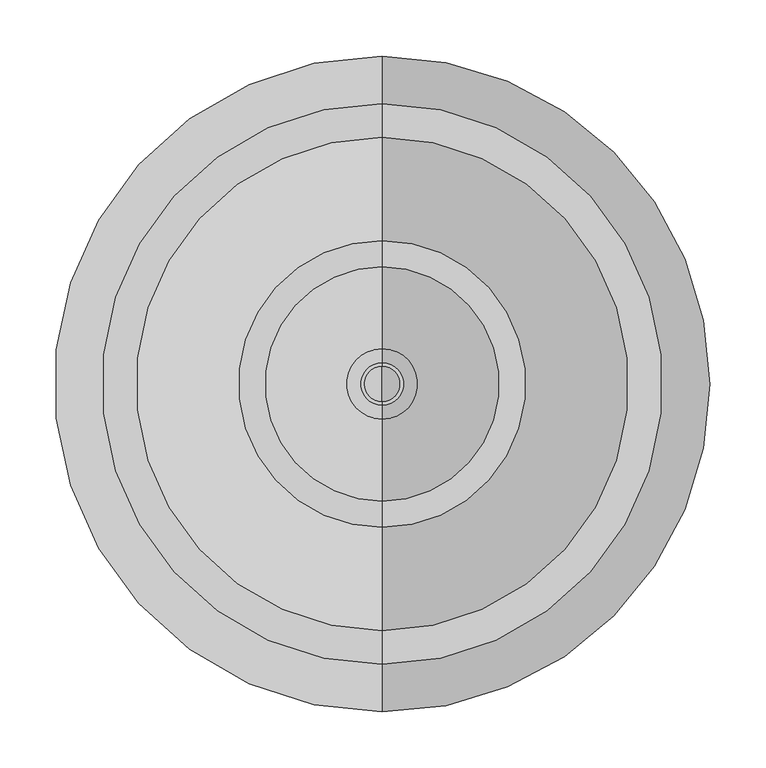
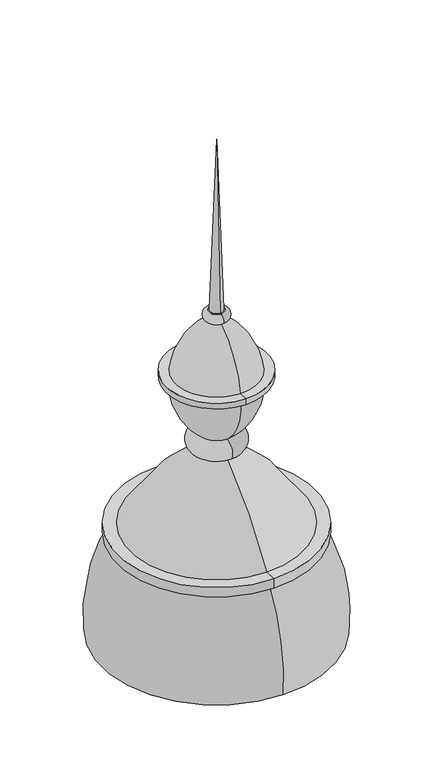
"""IFC4 building model written with IfcOpenShell, lengths in millimetres: column geometry, 旗杆2 : 旗杆."""

import ifcopenshell
import ifcopenshell.guid

model = None  # the IFC model being written
_history = None  # IfcOwnerHistory: only IFC2X3 demands one
_inside = {}  # id of a spatial element -> (the spatial element, [elements in it])
_under = {}  # id of a project, library or spatial element -> (it, [spatial elements below it])
_declared = {}  # id of a project -> (the project, [libraries it declares])
_typed = {}  # id of a type object -> (the type object, [elements of that type])
_made_of = {}  # id of a material, layer set ... -> (it, [elements and type objects made of it])


def new_model(schema):
    """Start an empty IFC model of exactly this schema.

    Asked for "IFC4X3", IfcOpenShell would pick the latest addendum, in which some entities
    have other attributes; the version numbers below select the first issue.
    IFC2X3 requires an IfcOwnerHistory on every rooted entity: one is made here for all.
    """
    global model, _history
    if schema == "IFC4X3":
        model = ifcopenshell.file(schema_version=(4, 3, 0, 0))
    else:
        model = ifcopenshell.file(schema=schema)
    _inside.clear()
    _under.clear()
    _declared.clear()
    _typed.clear()
    _made_of.clear()
    _history = None
    if model.schema == "IFC2X3":
        org = make("IfcOrganization", Name="unknown")
        user = make(
            "IfcPersonAndOrganization",
            ThePerson=make("IfcPerson", FamilyName="unknown"),
            TheOrganization=org,
        )
        app = make(
            "IfcApplication",
            ApplicationDeveloper=org,
            Version="unknown",
            ApplicationFullName="unknown",
            ApplicationIdentifier="unknown",
        )
        _history = make(
            "IfcOwnerHistory",
            OwningUser=user,
            OwningApplication=app,
            ChangeAction="ADDED",
            CreationDate=0,
        )
    return model


def make(cls, **values):
    """One entity of the class cls with the attributes given. An attribute that is None is left unset."""
    return model.create_entity(
        cls, **{name: value for name, value in values.items() if value is not None}
    )


def rooted(cls, **values):
    """An entity with a GlobalId (a new one), such as an element, a storey or a relation."""
    return make(cls, GlobalId=ifcopenshell.guid.new(), OwnerHistory=_history, **values)


def si_unit(unit_type, name, prefix=None):
    """IfcSIUnit, for example si_unit("LENGTHUNIT", "METRE", prefix="MILLI")."""
    return make("IfcSIUnit", UnitType=unit_type, Prefix=prefix, Name=name)


def assignment(units):
    """IfcUnitAssignment: the units of a project."""
    return None if units is None else make("IfcUnitAssignment", Units=units)


def point(xyz):
    """IfcCartesianPoint."""
    return None if xyz is None else make("IfcCartesianPoint", Coordinates=xyz)


def direction(xyz):
    """IfcDirection."""
    return None if xyz is None else make("IfcDirection", DirectionRatios=xyz)


def frame(location, z_axis=None, x_axis=None):
    """IfcAxis2Placement3D, a coordinate frame: its origin and axes. An axis left out is left unset."""
    return make(
        "IfcAxis2Placement3D",
        Location=point(location),
        Axis=direction(z_axis),
        RefDirection=direction(x_axis),
    )


def origin():
    """The frame at (0, 0, 0) with its axes left unset."""
    return frame((0.0, 0.0, 0.0))


def place(relative_to, where):
    """IfcLocalPlacement: puts the frame where relative to a parent placement (None: the world)."""
    return make(
        "IfcLocalPlacement", PlacementRelTo=relative_to, RelativePlacement=where
    )


def context(
    kind, dimensions, precision=None, world=None, true_north=None, identifier=None
):
    """IfcGeometricRepresentationContext, for example the 3D "Model" context."""
    return make(
        "IfcGeometricRepresentationContext",
        ContextIdentifier=identifier,
        ContextType=kind,
        CoordinateSpaceDimension=dimensions,
        Precision=precision,
        WorldCoordinateSystem=world,
        TrueNorth=true_north,
    )


def project(units=None, contexts=None):
    """IfcProject with its units and contexts."""
    return rooted(
        "IfcProject",
        Name="project",
        RepresentationContexts=contexts,
        UnitsInContext=assignment(units),
    )


def spatial(cls, under=None, at=None, **own):
    """A site, building, storey or space (cls), placed at a placement, below another one or the project."""
    s = rooted(cls, ObjectPlacement=at, **own)
    if under is not None:
        _under.setdefault(under.id(), (under, []))[1].append(s)
    return s


def polyline(points):
    """IfcPolyline through the points."""
    return make("IfcPolyline", Points=[point(p) for p in points])


def circle_curve(where, radius):
    """IfcCircle in the frame where."""
    return make("IfcCircle", Position=where, Radius=radius)


def ellipse_curve(where, semi_axis1, semi_axis2):
    """IfcEllipse in the frame where."""
    return make(
        "IfcEllipse", Position=where, SemiAxis1=semi_axis1, SemiAxis2=semi_axis2
    )


def trimmed(basis, trim1, trim2, sense, master):
    """IfcTrimmedCurve: the piece of a basis curve between two trims."""
    return make(
        "IfcTrimmedCurve",
        BasisCurve=basis,
        Trim1=trim1,
        Trim2=trim2,
        SenseAgreement=sense,
        MasterRepresentation=master,
    )


def shape(context_of_items, identifier, shape_type, items):
    """IfcShapeRepresentation: the items that make up one representation, for example the "Body"."""
    return make(
        "IfcShapeRepresentation",
        ContextOfItems=context_of_items,
        RepresentationIdentifier=identifier,
        RepresentationType=shape_type,
        Items=items,
    )


def source(mapping_origin, context_of_items, identifier, shape_type, items):
    """IfcRepresentationMap: a shape defined once, which mapped items show again and again."""
    return make(
        "IfcRepresentationMap",
        MappingOrigin=mapping_origin,
        MappedRepresentation=shape(context_of_items, identifier, shape_type, items),
    )


def transform(
    local_origin,
    x_axis=None,
    y_axis=None,
    z_axis=None,
    scale=None,
    scale2=None,
    scale3=None,
    uniform=True,
):
    """IfcCartesianTransformationOperator3D, or its non-uniform kind. x_axis, y_axis, z_axis: its Axis1, 2, 3."""
    if uniform:
        return make(
            "IfcCartesianTransformationOperator3D",
            Axis1=direction(x_axis),
            Axis2=direction(y_axis),
            LocalOrigin=point(local_origin),
            Scale=scale,
            Axis3=direction(z_axis),
        )
    return make(
        "IfcCartesianTransformationOperator3DnonUniform",
        Axis1=direction(x_axis),
        Axis2=direction(y_axis),
        LocalOrigin=point(local_origin),
        Scale=scale,
        Axis3=direction(z_axis),
        Scale2=scale2,
        Scale3=scale3,
    )


def mapped(mapping_source, mapping_target):
    """IfcMappedItem: shows the shape of a source again, moved by a transform."""
    return make(
        "IfcMappedItem", MappingSource=mapping_source, MappingTarget=mapping_target
    )


def made_of(thing, what):
    """Note that an element or type object is made of a material, layer set ...; save() writes the relation."""
    if what is not None:
        _made_of.setdefault(what.id(), (what, []))[1].append(thing)
    return thing


def element(
    cls,
    number,
    at=None,
    inside=None,
    cuts=None,
    type_object=None,
    material=None,
    context=None,
    identifier="Body",
    shape_type=None,
    held_by="IfcProductDefinitionShape",
    body=None,
    shapes=None,
    **own,
):
    """One element of the class cls, such as IfcWall. Its Tag is "e" and its number.

    at: its placement. inside: the storey or other place that contains it. cuts: it is an
    opening in that element (IfcRelVoidsElement). A single representation is given by context,
    identifier, shape_type and body (its items); several are given by shapes. held_by: the class
    of the entity that holds the representations. save() writes the other relations.
    """
    e = rooted(cls, Tag="e%d" % number, ObjectPlacement=at, **own)
    if body is not None:
        shapes = [shape(context, identifier, shape_type, body)]
    if shapes is not None:
        e.Representation = make(held_by, Representations=shapes)
    if inside is not None:
        _inside.setdefault(inside.id(), (inside, []))[1].append(e)
    if cuts is not None:
        rooted(
            "IfcRelVoidsElement", RelatingBuildingElement=cuts, RelatedOpeningElement=e
        )
    if type_object is not None:
        _typed.setdefault(type_object.id(), (type_object, []))[1].append(e)
    return made_of(e, material)


def aggregate(whole, parts):
    """IfcRelAggregates: a whole, such as a stair, and the parts it consists of."""
    return rooted("IfcRelAggregates", RelatingObject=whole, RelatedObjects=parts)


def save(model, path):
    """Write the relations noted so far, then the file.

    IfcRelAggregates (storeys below a building ...), IfcRelContainedInSpatialStructure (elements
    in a storey), IfcRelDefinesByType, IfcRelAssociatesMaterial and IfcRelDeclares: one each for
    every whole, place, type object, material and project.
    """
    for whole, parts in _under.values():
        aggregate(whole, parts)
    for where, things in _inside.values():
        rooted(
            "IfcRelContainedInSpatialStructure",
            RelatedElements=things,
            RelatingStructure=where,
        )
    for kind, things in _typed.values():
        rooted("IfcRelDefinesByType", RelatedObjects=things, RelatingType=kind)
    for what, things in _made_of.values():
        rooted("IfcRelAssociatesMaterial", RelatedObjects=things, RelatingMaterial=what)
    for by, libraries in _declared.values():
        rooted("IfcRelDeclares", RelatingContext=by, RelatedDefinitions=libraries)
    model.write(path)


def plane_surface(at):
    """IfcPlane: the flat surface through the origin of the frame at, square to its z axis."""
    return make("IfcPlane", Position=at)


def cylinder_surface(at, radius):
    """IfcCylindricalSurface: all points at the distance radius from the z axis of the frame at."""
    return make("IfcCylindricalSurface", Position=at, Radius=radius)


def revolved_surface(curve, axis_point, axis_direction):
    """IfcSurfaceOfRevolution: the curve turned about the line through axis_point along axis_direction."""
    return make(
        "IfcSurfaceOfRevolution",
        SweptCurve=make("IfcArbitraryOpenProfileDef", ProfileType="CURVE", Curve=curve),
        AxisPosition=make("IfcAxis1Placement", Location=point(axis_point), Axis=direction(axis_direction)),
    )


def advanced_brep(points, edges, surfaces, faces):
    """IfcAdvancedBrep: a solid bounded by faces that lie on surfaces and meet in shared edges.

    An edge is (start, end): straight between two places in points (the first is 0);
    or (start, end, curve); or (start, end, curve, False) where it runs against its curve.
    A face is (place in surfaces, loops), or (place, loops, False) where it looks against
    its surface's normal. A loop lists edges by number (the first is 1), with a minus sign
    where the edge is run from its end to its start. The first loop is the outer one.
    """
    corners = [point(p) for p in points]
    vertices = [make("IfcVertexPoint", VertexGeometry=c) for c in corners]
    made = []
    for start, end, *more in edges:
        made.append(
            make(
                "IfcEdgeCurve",
                EdgeStart=vertices[start],
                EdgeEnd=vertices[end],
                EdgeGeometry=more[0] if more else make("IfcPolyline", Points=[corners[start], corners[end]]),
                SameSense=more[1] if len(more) > 1 else True,
            )
        )
    hull = []
    for where, loops, *sense in faces:
        bounds = []
        for j, loop in enumerate(loops):
            ring = [make("IfcOrientedEdge", EdgeElement=made[abs(k) - 1], Orientation=k > 0) for k in loop]
            bounds.append(
                make(
                    "IfcFaceOuterBound" if j == 0 else "IfcFaceBound",
                    Bound=make("IfcEdgeLoop", EdgeList=ring),
                    Orientation=True,
                )
            )
        hull.append(make("IfcAdvancedFace", Bounds=bounds, FaceSurface=surfaces[where], SameSense=sense[0] if sense else True))
    return make("IfcAdvancedBrep", Outer=make("IfcClosedShell", CfsFaces=hull))


def column_7ae8a51b(model_context):
    return source(origin(), model_context, "Body", "AdvancedBrep", [
        advanced_brep(
        [(-7589.8275783, 1703.016625, 5400.0), (-7589.8275783, 1718.9165615, 4944.6853911), (-7589.8275783, 1687.1166885, 4944.6853911), (-7589.8275783, 1721.9324076, 4944.6853911), (-7589.8275783, 1684.1008424, 4944.6853911), (-7589.8275783, 1721.9324076, 4919.6853911), (-7589.8275783, 1684.1008424, 4919.6853911), (-7589.8275783, 1807.4090358, 4782.8941916), (-7589.8275783, 1598.6242142, 4782.8941916), (-7589.8275783, 1830.9588876, 4782.8941916), (-7589.8275783, 1575.0743625, 4782.8941916), (-7589.8275783, 1830.9588876, 4767.8941916), (-7589.8275783, 1575.0743625, 4767.8941916), (-7589.8275783, 1808.9479154, 4767.8941916), (-7589.8275783, 1597.0853346, 4767.8941916), (-7589.8275783, 1658.016625, 4625.0), (-7589.8275783, 1748.016625, 4625.0), (-7589.8275783, 1748.016625, 4575.0), (-7589.8275783, 1658.016625, 4575.0), (-7589.8275783, 1483.016625, 4375.0), (-7589.8275783, 1923.016625, 4375.0), (-7589.8275783, 1953.016625, 4375.0), (-7589.8275783, 1453.016625, 4375.0), (-7589.8275783, 1953.016625, 4350.0), (-7589.8275783, 1453.016625, 4350.0), (-7589.8275783, 1933.016625, 4350.0), (-7589.8275783, 1473.016625, 4350.0), (-7589.8275783, 1994.0309889, 4090.0), (-7878.17191, 1742.3473554, 4090.0), (-7878.17191, 1663.6858946, 4090.0), (-7589.8275783, 1412.0022611, 4090.0), (-7301.4832465, 1663.6858946, 4090.0), (-7301.4832465, 1742.3473554, 4090.0), (-7589.8275783, 1703.016625, 4090.0)],
        [
            (0, 1),
            (1, 2, circle_curve(frame((-7589.8275783, 1703.016625, 4944.6853911), z_axis=(0.0, 0.0, 1.0), x_axis=(0.0, 1.0, 0.0)), 15.8999365)),
            (2, 0),
            (2, 1, circle_curve(frame((-7589.8275783, 1703.016625, 4944.6853911), z_axis=(0.0, 0.0, 1.0), x_axis=(0.0, 1.0, 0.0)), 15.8999365)),
            (1, 3),
            (3, 4, circle_curve(frame((-7589.8275783, 1703.016625, 4944.6853911), z_axis=(0.0, 0.0, 1.0), x_axis=(0.0, 1.0, 0.0)), 18.9157826)),
            (4, 2),
            (4, 3, circle_curve(frame((-7589.8275783, 1703.016625, 4944.6853911), z_axis=(0.0, 0.0, 1.0), x_axis=(0.0, 1.0, 0.0)), 18.9157826)),
            (3, 5, circle_curve(frame((-7589.8275783, 1721.9324076, 4932.1853911), z_axis=(-1.0, 0.0, 0.0), x_axis=(0.0, 1.0, 0.0)), 12.5)),
            (5, 6, circle_curve(frame((-7589.8275783, 1703.016625, 4919.6853911), z_axis=(0.0, 0.0, 1.0), x_axis=(0.0, 1.0, 0.0)), 18.9157826)),
            (6, 4, circle_curve(frame((-7589.8275783, 1684.1008424, 4932.1853911), z_axis=(-1.0, 0.0, 0.0), x_axis=(0.0, -1.0, 0.0)), 12.5)),
            (6, 5, circle_curve(frame((-7589.8275783, 1703.016625, 4919.6853911), z_axis=(0.0, 0.0, 1.0), x_axis=(0.0, 1.0, 0.0)), 18.9157826)),
            (5, 7, circle_curve(frame((-7589.8275783, 1610.8077548, 4755.145539), z_axis=(-1.0, 0.0, 0.0), x_axis=(0.0, 1.0, 0.0)), 198.5498713)),
            (7, 8, circle_curve(frame((-7589.8275783, 1703.016625, 4782.8941916), z_axis=(0.0, 0.0, 1.0), x_axis=(0.0, 1.0, 0.0)), 104.3924108)),
            (8, 6, circle_curve(frame((-7589.8275783, 1795.2254952, 4755.145539), z_axis=(-1.0, 0.0, 0.0), x_axis=(0.0, -1.0, 0.0)), 198.5498713)),
            (8, 7, circle_curve(frame((-7589.8275783, 1703.016625, 4782.8941916), z_axis=(0.0, 0.0, 1.0), x_axis=(0.0, 1.0, 0.0)), 104.3924108)),
            (7, 9),
            (9, 10, circle_curve(frame((-7589.8275783, 1703.016625, 4782.8941916), z_axis=(0.0, 0.0, 1.0), x_axis=(0.0, 1.0, 0.0)), 127.9422625)),
            (10, 8),
            (10, 9, circle_curve(frame((-7589.8275783, 1703.016625, 4782.8941916), z_axis=(0.0, 0.0, 1.0), x_axis=(0.0, 1.0, 0.0)), 127.9422625)),
            (9, 11),
            (11, 12, circle_curve(frame((-7589.8275783, 1703.016625, 4767.8941916), z_axis=(0.0, 0.0, 1.0), x_axis=(0.0, 1.0, 0.0)), 127.9422625)),
            (12, 10),
            (12, 11, circle_curve(frame((-7589.8275783, 1703.016625, 4767.8941916), z_axis=(0.0, 0.0, 1.0), x_axis=(0.0, 1.0, 0.0)), 127.9422625)),
            (11, 13),
            (13, 14, circle_curve(frame((-7589.8275783, 1703.016625, 4767.8941916), z_axis=(0.0, 0.0, 1.0), x_axis=(0.0, 1.0, 0.0)), 105.9312904)),
            (14, 12),
            (14, 13, circle_curve(frame((-7589.8275783, 1703.016625, 4767.8941916), z_axis=(0.0, 0.0, 1.0), x_axis=(0.0, 1.0, 0.0)), 105.9312904)),
            (15, 16, circle_curve(frame((-7589.8275783, 1703.016625, 4625.0), z_axis=(0.0, 0.0, -1.0), x_axis=(0.0, 1.0, 0.0)), 45.0)),
            (16, 17, circle_curve(frame((-7589.8275783, 1748.016625, 4600.0), z_axis=(-1.0, 0.0, 0.0), x_axis=(0.0, 1.0, 0.0)), 25.0)),
            (17, 18, circle_curve(frame((-7589.8275783, 1703.016625, 4575.0), z_axis=(0.0, 0.0, 1.0), x_axis=(0.0, 1.0, 0.0)), 45.0)),
            (18, 15, circle_curve(frame((-7589.8275783, 1658.016625, 4600.0), z_axis=(-1.0, 0.0, 0.0), x_axis=(0.0, -1.0, 0.0)), 25.0)),
            (16, 15, circle_curve(frame((-7589.8275783, 1703.016625, 4625.0), z_axis=(0.0, 0.0, -1.0), x_axis=(0.0, 1.0, 0.0)), 45.0)),
            (18, 17, circle_curve(frame((-7589.8275783, 1703.016625, 4575.0), z_axis=(0.0, 0.0, 1.0), x_axis=(0.0, 1.0, 0.0)), 45.0)),
            (19, 20, circle_curve(frame((-7589.8275783, 1703.016625, 4375.0), z_axis=(0.0, 0.0, -1.0), x_axis=(0.0, 1.0, 0.0)), 220.0)),
            (20, 21),
            (21, 22, circle_curve(frame((-7589.8275783, 1703.016625, 4375.0), z_axis=(0.0, 0.0, 1.0), x_axis=(0.0, 1.0, 0.0)), 250.0)),
            (22, 19),
            (20, 19, circle_curve(frame((-7589.8275783, 1703.016625, 4375.0), z_axis=(0.0, 0.0, -1.0), x_axis=(0.0, 1.0, 0.0)), 220.0)),
            (22, 21, circle_curve(frame((-7589.8275783, 1703.016625, 4375.0), z_axis=(0.0, 0.0, 1.0), x_axis=(0.0, 1.0, 0.0)), 250.0)),
            (21, 23),
            (23, 24, circle_curve(frame((-7589.8275783, 1703.016625, 4350.0), z_axis=(0.0, 0.0, 1.0), x_axis=(0.0, 1.0, 0.0)), 250.0)),
            (24, 22),
            (24, 23, circle_curve(frame((-7589.8275783, 1703.016625, 4350.0), z_axis=(0.0, 0.0, 1.0), x_axis=(0.0, 1.0, 0.0)), 250.0)),
            (23, 25),
            (25, 26, circle_curve(frame((-7589.8275783, 1703.016625, 4350.0), z_axis=(0.0, 0.0, 1.0), x_axis=(0.0, 1.0, 0.0)), 230.0)),
            (26, 24),
            (26, 25, circle_curve(frame((-7589.8275783, 1703.016625, 4350.0), z_axis=(0.0, 0.0, 1.0), x_axis=(0.0, 1.0, 0.0)), 230.0)),
            (25, 27, circle_curve(frame((-7589.8275783, 1587.4450413, 4131.7453589), z_axis=(-1.0, 0.0, 0.0), x_axis=(0.0, 1.0, 0.0)), 408.7233879)),
            (27, 28, circle_curve(frame((-7589.8275783, 1703.016625, 4090.0), z_axis=(0.0, 0.0, 1.0), x_axis=(0.0, 1.0, 0.0)), 291.0143639)),
            (28, 29, circle_curve(frame((-7589.8275783, 1703.016625, 4090.0), z_axis=(0.0, 0.0, 1.0), x_axis=(0.0, 1.0, 0.0)), 291.0143639)),
            (29, 30, circle_curve(frame((-7589.8275783, 1703.016625, 4090.0), z_axis=(0.0, 0.0, 1.0), x_axis=(0.0, 1.0, 0.0)), 291.0143639)),
            (30, 26, circle_curve(frame((-7589.8275783, 1818.5882087, 4131.7453589), z_axis=(-1.0, 0.0, 0.0), x_axis=(0.0, -1.0, 0.0)), 408.7233879)),
            (30, 31, circle_curve(frame((-7589.8275783, 1703.016625, 4090.0), z_axis=(0.0, 0.0, 1.0), x_axis=(0.0, 1.0, 0.0)), 291.0143639)),
            (31, 32, circle_curve(frame((-7589.8275783, 1703.016625, 4090.0), z_axis=(0.0, 0.0, 1.0), x_axis=(0.0, 1.0, 0.0)), 291.0143639)),
            (32, 27, circle_curve(frame((-7589.8275783, 1703.016625, 4090.0), z_axis=(0.0, 0.0, 1.0), x_axis=(0.0, 1.0, 0.0)), 291.0143639)),
            (27, 33),
            (33, 30),
            (13, 16, circle_curve(frame((-7589.8275783, 1643.0871841, 4754.1807043), z_axis=(-1.0, 0.0, 0.0), x_axis=(0.0, 1.0, 0.0)), 166.4266864)),
            (15, 14, circle_curve(frame((-7589.8275783, 1762.9460659, 4754.1807043), z_axis=(-1.0, 0.0, 0.0), x_axis=(0.0, -1.0, 0.0)), 166.4266864)),
            (17, 20, circle_curve(frame((-7589.8275783, 1330.6482827, 4033.2402005), z_axis=(-1.0, 0.0, 0.0), x_axis=(0.0, 1.0, 0.0)), 683.8859653)),
            (19, 18, circle_curve(frame((-7589.8275783, 2075.3849673, 4033.2402005), z_axis=(-1.0, 0.0, 0.0), x_axis=(0.0, -1.0, 0.0)), 683.8859653)),
        ],
        [
            revolved_surface(polyline([(-7589.8275783, 1718.9165615, 4944.6853911), (-7589.8275783, 1703.016625, 5400.0)]), (-7589.8275783, 1703.016625, 4150.0), (0.0, 0.0, 1.0)),
            plane_surface(frame((-7589.8275783, 1703.016625, 4944.6853911), z_axis=(0.0, 0.0, 1.0), x_axis=(0.0, 1.0, 0.0))),
            revolved_surface(trimmed(ellipse_curve(frame((-7589.8275783, 1721.9324076, 4932.1853911), z_axis=(1.0, 0.0, 0.0), x_axis=(0.0, 1.0, 0.0)), 12.5, 12.5), [point((-7589.8275783, 1721.9324076, 4919.6853911))], [point((-7589.8275783, 1721.9324076, 4944.6853911))], True, "CARTESIAN"), (-7589.8275783, 1703.016625, 4150.0), (0.0, 0.0, 1.0)),
            revolved_surface(trimmed(ellipse_curve(frame((-7589.8275783, 1610.8077548, 4755.145539), z_axis=(1.0, 0.0, 0.0), x_axis=(0.0, 1.0, 0.0)), 198.5498713, 198.5498713), [point((-7589.8275783, 1807.4090358, 4782.8941916))], [point((-7589.8275783, 1721.9324076, 4919.6853911))], True, "CARTESIAN"), (-7589.8275783, 1703.016625, 4150.0), (0.0, 0.0, 1.0)),
            plane_surface(frame((-7589.8275783, 1703.016625, 4782.8941916), z_axis=(0.0, 0.0, 1.0), x_axis=(0.0, 1.0, 0.0))),
            cylinder_surface(frame((-7589.8275783, 1703.016625, 4150.0), z_axis=(0.0, 0.0, 1.0), x_axis=(0.0, 1.0, 0.0)), 127.9422625),
            plane_surface(frame((-7589.8275783, 1703.016625, 4767.8941916), z_axis=(0.0, 0.0, -1.0), x_axis=(0.0, 1.0, 0.0))),
            revolved_surface(trimmed(ellipse_curve(frame((-7589.8275783, 1748.016625, 4600.0), z_axis=(1.0, 0.0, 0.0), x_axis=(0.0, 1.0, 0.0)), 25.0, 25.0), [point((-7589.8275783, 1748.016625, 4575.0))], [point((-7589.8275783, 1748.016625, 4625.0))], True, "CARTESIAN"), (-7589.8275783, 1703.016625, 4150.0), (0.0, 0.0, 1.0)),
            plane_surface(frame((-7589.8275783, 1703.016625, 4375.0), z_axis=(0.0, 0.0, 1.0), x_axis=(0.0, 1.0, 0.0))),
            cylinder_surface(frame((-7589.8275783, 1703.016625, 4150.0), z_axis=(0.0, 0.0, 1.0), x_axis=(0.0, 1.0, 0.0)), 250.0),
            plane_surface(frame((-7589.8275783, 1703.016625, 4350.0), z_axis=(0.0, 0.0, -1.0), x_axis=(0.0, 1.0, 0.0))),
            revolved_surface(trimmed(ellipse_curve(frame((-7589.8275783, 1587.4450413, 4131.7453589), z_axis=(1.0, 0.0, 0.0), x_axis=(0.0, 1.0, 0.0)), 408.7233879, 408.7233879), [point((-7589.8275783, 1994.0309889, 4090.0))], [point((-7589.8275783, 1933.016625, 4350.0))], True, "CARTESIAN"), (-7589.8275783, 1703.016625, 4150.0), (0.0, 0.0, 1.0)),
            plane_surface(frame((-7589.8275783, 1703.016625, 4090.0), z_axis=(0.0, 0.0, -1.0), x_axis=(0.0, 1.0, 0.0))),
            revolved_surface(trimmed(ellipse_curve(frame((-7589.8275783, 1643.0871841, 4754.1807043), z_axis=(1.0, 0.0, 0.0), x_axis=(0.0, 1.0, 0.0)), 166.4266864, 166.4266864), [point((-7589.8275783, 1748.016625, 4625.0))], [point((-7589.8275783, 1808.9479154, 4767.8941916))], True, "CARTESIAN"), (-7589.8275783, 1703.016625, 4150.0), (0.0, 0.0, 1.0)),
            revolved_surface(trimmed(ellipse_curve(frame((-7589.8275783, 1330.6482827, 4033.2402005), z_axis=(1.0, 0.0, 0.0), x_axis=(0.0, 1.0, 0.0)), 683.8859653, 683.8859653), [point((-7589.8275783, 1923.016625, 4375.0))], [point((-7589.8275783, 1748.016625, 4575.0))], True, "CARTESIAN"), (-7589.8275783, 1703.016625, 4150.0), (0.0, 0.0, 1.0)),
        ],
        [
            (0, [[1, 2, 3]]),
            (0, [[-3, 4, -1]]),
            (1, [[-2, 5, 6, 7]]),
            (1, [[-4, -7, 8, -5]]),
            (2, [[-6, 9, 10, 11]]),
            (2, [[-8, -11, 12, -9]]),
            (3, [[-10, 13, 14, 15]]),
            (3, [[-12, -15, 16, -13]]),
            (4, [[-14, 17, 18, 19]]),
            (4, [[-16, -19, 20, -17]]),
            (5, [[-18, 21, 22, 23]]),
            (5, [[-20, -23, 24, -21]]),
            (6, [[-22, 25, 26, 27]]),
            (6, [[-24, -27, 28, -25]]),
            (7, [[29, 30, 31, 32]]),
            (7, [[33, -32, 34, -30]]),
            (8, [[35, 36, 37, 38]]),
            (8, [[39, -38, 40, -36]]),
            (9, [[-37, 41, 42, 43]]),
            (9, [[-40, -43, 44, -41]]),
            (10, [[-42, 45, 46, 47]]),
            (10, [[-44, -47, 48, -45]]),
            (11, [[-46, 49, 50, 51, 52, 53]]),
            (11, [[-48, -53, 54, 55, 56, -49]]),
            (12, [[-52, -51, -50, 57, 58]]),
            (12, [[-56, -55, -54, -58, -57]]),
            (13, [[-26, 59, -29, 60]]),
            (13, [[-28, -60, -33, -59]]),
            (14, [[-31, 61, -35, 62]]),
            (14, [[-34, -62, -39, -61]]),
        ],
    ),
    ])


if __name__ == "__main__":
    model = new_model("IFC4")
    model_context = context("Model", 3, world=origin())
    ifc_project = project(units=[si_unit("LENGTHUNIT", "METRE", prefix="MILLI")], contexts=[model_context])
    site = spatial("IfcSite", under=ifc_project)
    building = spatial("IfcBuilding", under=site)
    placement = place(None, origin())
    column_shape = column_7ae8a51b(model_context)
    element("IfcColumn", 1, ObjectType="旗杆2 : 旗杆", at=placement, inside=building, context=model_context, shape_type="MappedRepresentation", body=[
        mapped(column_shape, transform((0.0, 0.0, 0.0), x_axis=(1.0, 0.0, 0.0), y_axis=(0.0, 1.0, 0.0), z_axis=(0.0, 0.0, 1.0))),
    ])
    save(model, "model.ifc")
